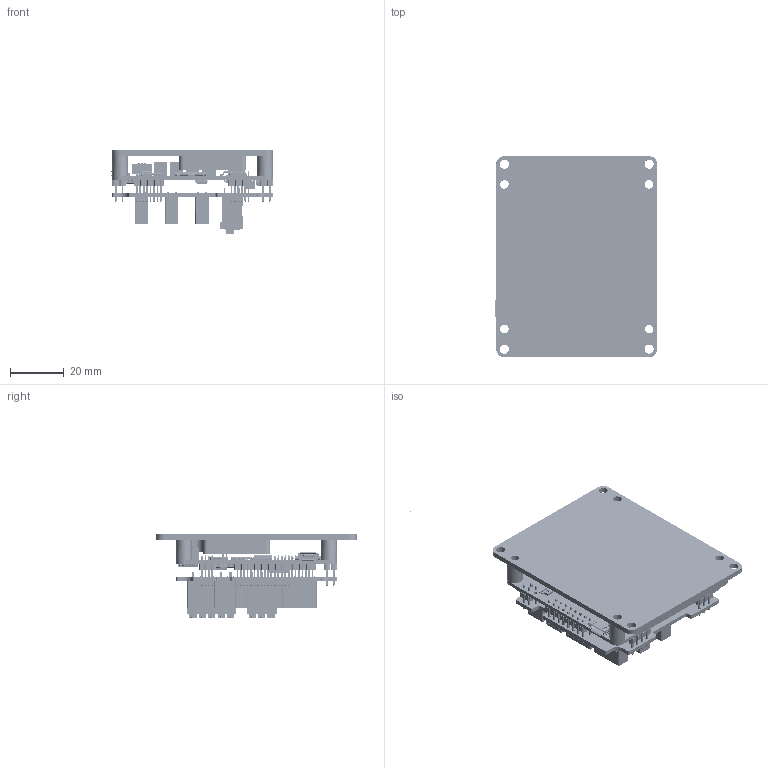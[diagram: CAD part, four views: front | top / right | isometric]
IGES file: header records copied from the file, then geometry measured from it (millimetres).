
Start section: SolidWorks IGES file using analytic representation for surfaces
Global section: file name: C:\Users\abolet\Desktop\3Ds\i038-01H1-Pinheader(nude)+ConnectorBoard.IGS; native system: SolidWorks 2016; preprocessor: SolidWorks 2016; author: abolet; date: 160218.174314; units: millimetre
Bounding box: 60.55 x 123.3 x 31.05 mm (x, y, z)
Surface area: 42429.8 mm2 (no closed solid volume)
Topology: 0 solids, 0 shells, 12171 faces, 78570 edges, 77936 vertices
Faces by surface type: bspline 8535, revolution 3636
